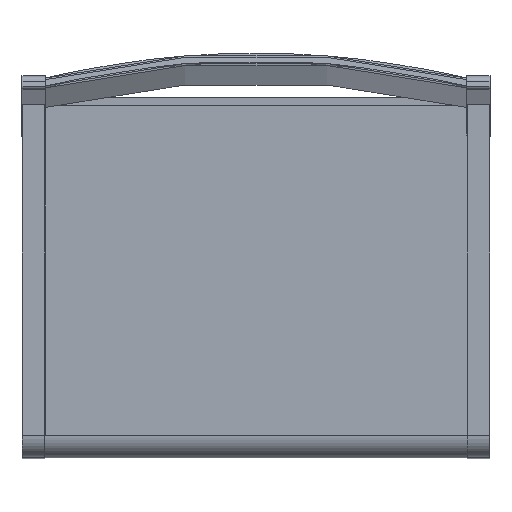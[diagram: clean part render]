
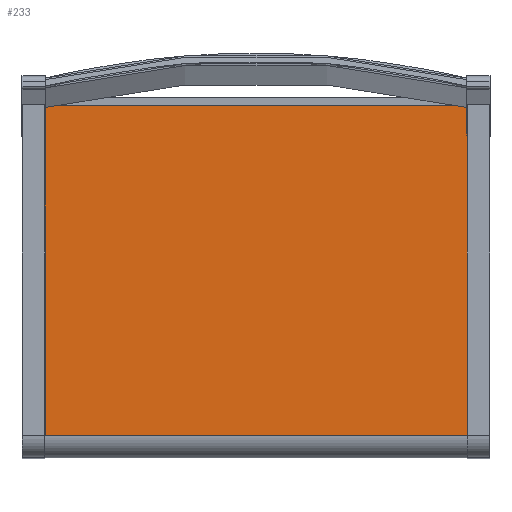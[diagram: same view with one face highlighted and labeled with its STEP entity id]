
A CAD part, top view. The second image highlights one B-rep face of the part: STEP entity #233.
In plain terms, the highlighted planar face has unit normal (0, 0, 1).
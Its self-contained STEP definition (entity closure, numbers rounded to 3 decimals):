
#81=B_SPLINE_CURVE_WITH_KNOTS('',1,(#2726,#2727),.UNSPECIFIED.,.F.,.F.,
(2,2),(-1710.006,-1335.101),.UNSPECIFIED.);
#85=B_SPLINE_CURVE_WITH_KNOTS('',1,(#2734,#2735),.UNSPECIFIED.,.F.,.F.,
(2,2),(-1335.101,-855.003),.UNSPECIFIED.);
#88=B_SPLINE_CURVE_WITH_KNOTS('',1,(#2740,#2741),.UNSPECIFIED.,.F.,.F.,
(2,2),(-855.003,-480.098),.UNSPECIFIED.);
#91=B_SPLINE_CURVE_WITH_KNOTS('',1,(#2746,#2747),.UNSPECIFIED.,.F.,.F.,
(2,2),(-480.098,0.),.UNSPECIFIED.);
#233=ADVANCED_FACE('',(#336),#1478,.T.);
#336=FACE_OUTER_BOUND('',#439,.T.);
#439=EDGE_LOOP('',(#809,#810,#811,#812));
#809=ORIENTED_EDGE('',*,*,#1088,.F.);
#810=ORIENTED_EDGE('',*,*,#1085,.F.);
#811=ORIENTED_EDGE('',*,*,#1082,.F.);
#812=ORIENTED_EDGE('',*,*,#1078,.F.);
#1078=EDGE_CURVE('',#1363,#1364,#81,.T.);
#1082=EDGE_CURVE('',#1364,#1367,#85,.T.);
#1085=EDGE_CURVE('',#1367,#1369,#88,.T.);
#1088=EDGE_CURVE('',#1369,#1363,#91,.T.);
#1363=VERTEX_POINT('',#2718);
#1364=VERTEX_POINT('',#2719);
#1367=VERTEX_POINT('',#2722);
#1369=VERTEX_POINT('',#2724);
#1478=PLANE('',#1669);
#1669=AXIS2_PLACEMENT_3D('',#2716,#1766,$);
#1766=DIRECTION('',(0.,0.,1.));
#2716=CARTESIAN_POINT('',(240.056,-204.299,459.996));
#2718=CARTESIAN_POINT('',(-240.042,-204.299,459.996));
#2719=CARTESIAN_POINT('',(-240.042,170.606,459.996));
#2722=CARTESIAN_POINT('',(240.056,170.606,459.996));
#2724=CARTESIAN_POINT('',(240.056,-204.299,459.996));
#2726=CARTESIAN_POINT('',(-240.042,-204.299,459.996));
#2727=CARTESIAN_POINT('',(-240.042,170.606,459.996));
#2734=CARTESIAN_POINT('',(-240.042,170.606,459.996));
#2735=CARTESIAN_POINT('',(240.056,170.606,459.996));
#2740=CARTESIAN_POINT('',(240.056,170.606,459.996));
#2741=CARTESIAN_POINT('',(240.056,-204.299,459.996));
#2746=CARTESIAN_POINT('',(240.056,-204.299,459.996));
#2747=CARTESIAN_POINT('',(-240.042,-204.299,459.996));
